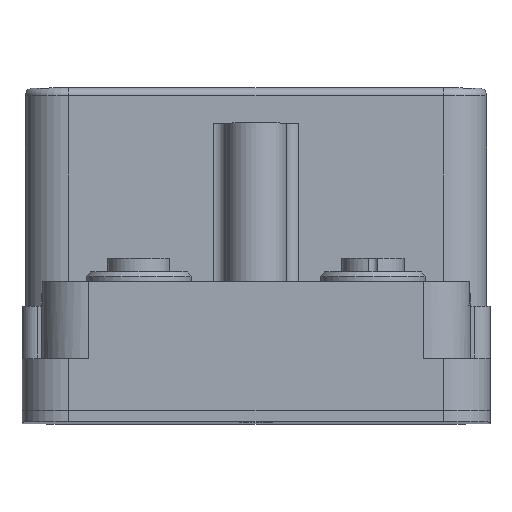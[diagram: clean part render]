
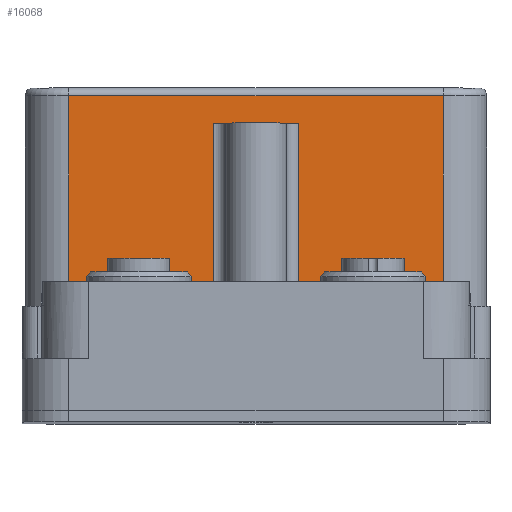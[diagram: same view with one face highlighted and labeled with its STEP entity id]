
A CAD part, top view. The second image highlights one B-rep face of the part: STEP entity #16068.
In plain terms, the highlighted planar face has unit normal (0, 0, 1).
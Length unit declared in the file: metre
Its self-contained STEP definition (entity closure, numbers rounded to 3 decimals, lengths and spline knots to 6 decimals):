
#22 = EDGE_CURVE ( 'NONE', #27096, #29830, #32869, .T. ) ;
#556 = VECTOR ( 'NONE', #7118, 1. ) ;
#1335 = EDGE_CURVE ( 'NONE', #21359, #32662, #28003, .T. ) ;
#1820 = LINE ( 'NONE', #29925, #2641 ) ;
#1948 = CARTESIAN_POINT ( 'NONE',  ( 0.0354, 0.037, 0.04665 ) ) ;
#2107 = DIRECTION ( 'NONE',  ( 1., 0., 0. ) ) ;
#2359 = CARTESIAN_POINT ( 'NONE',  ( 0.054, 0.0405, 0.04665 ) ) ;
#2388 = ORIENTED_EDGE ( 'NONE', *, *, #8616, .F. ) ;
#2399 = CARTESIAN_POINT ( 'NONE',  ( 0.0246, 0.0135, 0.04665 ) ) ;
#2641 = VECTOR ( 'NONE', #6716, 1. ) ;
#2884 = VECTOR ( 'NONE', #27523, 1. ) ;
#3969 = DIRECTION ( 'NONE',  ( 0., 1., 0. ) ) ;
#5149 = VERTEX_POINT ( 'NONE', #15857 ) ;
#6716 = DIRECTION ( 'NONE',  ( 0., 1., 0. ) ) ;
#7033 = VECTOR ( 'NONE', #7917, 1. ) ;
#7100 = EDGE_CURVE ( 'NONE', #5149, #27255, #12280, .T. ) ;
#7118 = DIRECTION ( 'NONE',  ( -1., 0., 0. ) ) ;
#7917 = DIRECTION ( 'NONE',  ( -1., 0., 0. ) ) ;
#8007 = CARTESIAN_POINT ( 'NONE',  ( 0.0354, 0.0135, 0.04665 ) ) ;
#8616 = EDGE_CURVE ( 'NONE', #21969, #19059, #24427, .T. ) ;
#9017 = CARTESIAN_POINT ( 'NONE',  ( 0.0246, 0.0135, 0.04665 ) ) ;
#9108 = CARTESIAN_POINT ( 'NONE',  ( 0.0354, 0.0135, 0.04665 ) ) ;
#9739 = LINE ( 'NONE', #9108, #2884 ) ;
#9783 = PLANE ( 'NONE',  #13627 ) ;
#11364 = EDGE_CURVE ( 'NONE', #19059, #21359, #9739, .T. ) ;
#11623 = CARTESIAN_POINT ( 'NONE',  ( 0.027, 0.0405, 0.04665 ) ) ;
#11850 = DIRECTION ( 'NONE',  ( 1., 0., 0. ) ) ;
#12280 = LINE ( 'NONE', #11623, #14732 ) ;
#12364 = DIRECTION ( 'NONE',  ( 0., 0., 1. ) ) ;
#12773 = VECTOR ( 'NONE', #33208, 1. ) ;
#12982 = DIRECTION ( 'NONE',  ( -1., 0., 0. ) ) ;
#13627 = AXIS2_PLACEMENT_3D ( 'NONE', #17689, #12364, #2107 ) ;
#14175 = EDGE_CURVE ( 'NONE', #27096, #32662, #27302, .T. ) ;
#14284 = ORIENTED_EDGE ( 'NONE', *, *, #18214, .T. ) ;
#14732 = VECTOR ( 'NONE', #11850, 1. ) ;
#15364 = CARTESIAN_POINT ( 'NONE',  ( 0.054, 0.0135, 0.04665 ) ) ;
#15736 = CARTESIAN_POINT ( 'NONE',  ( 0.054, 0.0135, 0.04665 ) ) ;
#15857 = CARTESIAN_POINT ( 'NONE',  ( 0.006, 0.0405, 0.04665 ) ) ;
#16050 = CARTESIAN_POINT ( 'NONE',  ( 0.006, 0.0135, 0.04665 ) ) ;
#16068 = ADVANCED_FACE ( 'NONE', ( #31384 ), #9783, .T. ) ;
#17689 = CARTESIAN_POINT ( 'NONE',  ( 0.054, 0.0135, 0.04665 ) ) ;
#18214 = EDGE_CURVE ( 'NONE', #21969, #27255, #1820, .T. ) ;
#18808 = EDGE_LOOP ( 'NONE', ( #25767, #24770, #33221, #28811, #23120, #23241, #2388, #14284 ) ) ;
#18856 = VECTOR ( 'NONE', #3969, 1. ) ;
#18984 = CARTESIAN_POINT ( 'NONE',  ( 0.0354, 0.037, 0.04665 ) ) ;
#19059 = VERTEX_POINT ( 'NONE', #8007 ) ;
#21359 = VERTEX_POINT ( 'NONE', #18984 ) ;
#21969 = VERTEX_POINT ( 'NONE', #15364 ) ;
#22919 = CARTESIAN_POINT ( 'NONE',  ( 0.006, 0.0135, 0.04665 ) ) ;
#23120 = ORIENTED_EDGE ( 'NONE', *, *, #1335, .F. ) ;
#23241 = ORIENTED_EDGE ( 'NONE', *, *, #11364, .F. ) ;
#23709 = LINE ( 'NONE', #22919, #12773 ) ;
#24427 = LINE ( 'NONE', #15736, #7033 ) ;
#24770 = ORIENTED_EDGE ( 'NONE', *, *, #25919, .F. ) ;
#25767 = ORIENTED_EDGE ( 'NONE', *, *, #7100, .F. ) ;
#25919 = EDGE_CURVE ( 'NONE', #29830, #5149, #23709, .T. ) ;
#26202 = CARTESIAN_POINT ( 'NONE',  ( 0.0246, 0.0135, 0.04665 ) ) ;
#27096 = VERTEX_POINT ( 'NONE', #2399 ) ;
#27255 = VERTEX_POINT ( 'NONE', #2359 ) ;
#27302 = LINE ( 'NONE', #9017, #18856 ) ;
#27523 = DIRECTION ( 'NONE',  ( 0., 1., 0. ) ) ;
#28003 = LINE ( 'NONE', #1948, #556 ) ;
#28101 = VECTOR ( 'NONE', #12982, 1. ) ;
#28811 = ORIENTED_EDGE ( 'NONE', *, *, #14175, .T. ) ;
#29419 = CARTESIAN_POINT ( 'NONE',  ( 0.0246, 0.037, 0.04665 ) ) ;
#29830 = VERTEX_POINT ( 'NONE', #16050 ) ;
#29925 = CARTESIAN_POINT ( 'NONE',  ( 0.054, 0.0135, 0.04665 ) ) ;
#31384 = FACE_OUTER_BOUND ( 'NONE', #18808, .T. ) ;
#32662 = VERTEX_POINT ( 'NONE', #29419 ) ;
#32869 = LINE ( 'NONE', #26202, #28101 ) ;
#33208 = DIRECTION ( 'NONE',  ( 0., 1., 0. ) ) ;
#33221 = ORIENTED_EDGE ( 'NONE', *, *, #22, .F. ) ;
